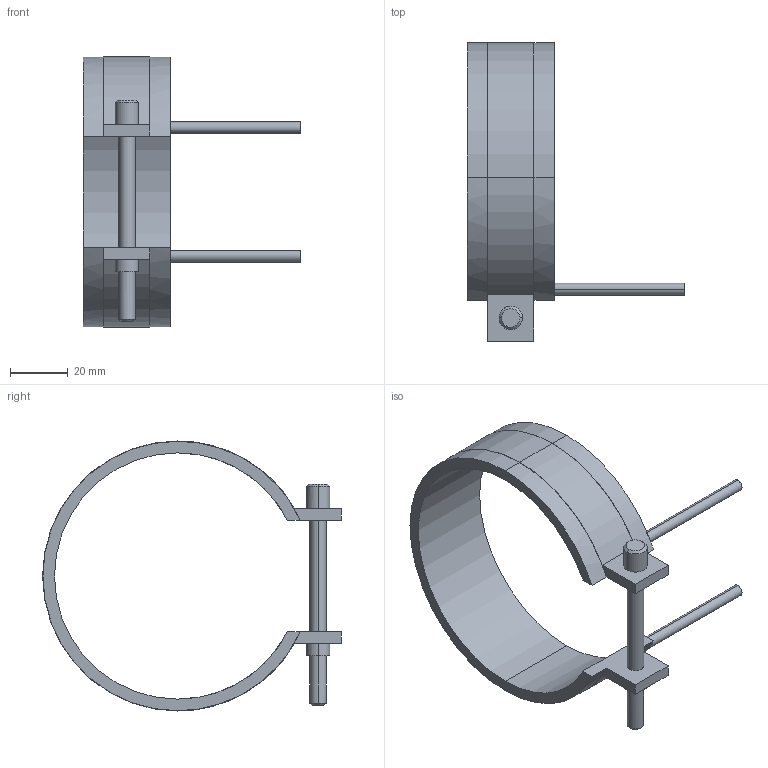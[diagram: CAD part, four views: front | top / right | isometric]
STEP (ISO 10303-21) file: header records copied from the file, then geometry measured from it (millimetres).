
FILE_DESCRIPTION(('CATIA V5 STEP Exchange'),'2;1');
FILE_NAME('C:\Users\Utente\Desktop\IO LAVORO\3D X SITO CF\X SITO\PLASTICA\RF2\14085030.stp','2021-04-06T16:18:08+00:00',('none'),('none'),'CATIA Version 5 Release 20 GA (IN-10)','CATIA V5 STEP AP203','none');
FILE_SCHEMA(('CONFIG_CONTROL_DESIGN'));
Length unit declared in the file: millimetre
Products named in the file (1): 14085030
Bounding box: 75 x 103.1 x 93.2 mm (x, y, z)
Volume: 34283.5 mm3; surface area: 20199.7 mm2
Topology: 1 solids, 1 shells, 45 faces, 116 edges, 76 vertices
Faces by surface type: cylinder 24, plane 17, cone 4
Entity records: 1418 total; most frequent: CARTESIAN_POINT 296, ORIENTED_EDGE 232, DIRECTION 194, EDGE_CURVE 116, AXIS2_PLACEMENT_3D 102, VERTEX_POINT 76, CIRCLE 60, VECTOR 52
